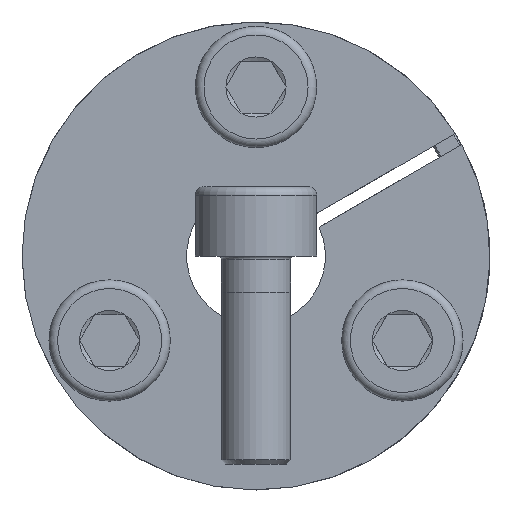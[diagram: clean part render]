
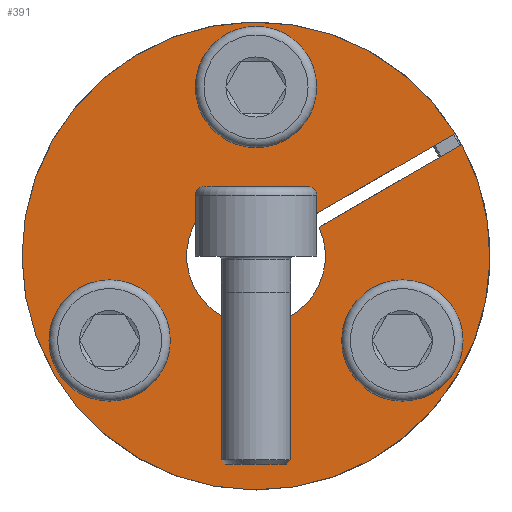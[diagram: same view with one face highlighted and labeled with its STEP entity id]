
A CAD part, front view. The second image highlights one B-rep face of the part: STEP entity #391.
In plain terms, the highlighted planar face has unit normal (0, -1, 0).
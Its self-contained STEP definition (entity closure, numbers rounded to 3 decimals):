
#391 = ADVANCED_FACE( '', ( #656, #657, #658, #659 ), #660, .F. );
#656 = FACE_BOUND( '', #898, .T. );
#657 = FACE_BOUND( '', #899, .T. );
#658 = FACE_BOUND( '', #900, .T. );
#659 = FACE_OUTER_BOUND( '', #901, .T. );
#660 = PLANE( '', #902 );
#898 = EDGE_LOOP( '', ( #1249 ) );
#899 = EDGE_LOOP( '', ( #1250 ) );
#900 = EDGE_LOOP( '', ( #1251 ) );
#901 = EDGE_LOOP( '', ( #1252, #1253, #1254, #1255 ) );
#902 = AXIS2_PLACEMENT_3D( '', #1256, #1257, #1258 );
#1249 = ORIENTED_EDGE( '', *, *, #1767, .T. );
#1250 = ORIENTED_EDGE( '', *, *, #1768, .T. );
#1251 = ORIENTED_EDGE( '', *, *, #1761, .T. );
#1252 = ORIENTED_EDGE( '', *, *, #1756, .T. );
#1253 = ORIENTED_EDGE( '', *, *, #1762, .T. );
#1254 = ORIENTED_EDGE( '', *, *, #1733, .T. );
#1255 = ORIENTED_EDGE( '', *, *, #1724, .F. );
#1256 = CARTESIAN_POINT( '', ( 0., 0., 13.5 ) );
#1257 = DIRECTION( '', ( 0., 1., 0. ) );
#1258 = DIRECTION( '', ( 0., 0., 1. ) );
#1724 = EDGE_CURVE( '', #1910, #1906, #1912, .T. );
#1733 = EDGE_CURVE( '', #1929, #1906, #1930, .T. );
#1756 = EDGE_CURVE( '', #1910, #1965, #1967, .T. );
#1761 = EDGE_CURVE( '', #1973, #1973, #1974, .T. );
#1762 = EDGE_CURVE( '', #1965, #1929, #1975, .T. );
#1767 = EDGE_CURVE( '', #1983, #1983, #1984, .T. );
#1768 = EDGE_CURVE( '', #1985, #1985, #1986, .T. );
#1906 = VERTEX_POINT( '', #2109 );
#1910 = VERTEX_POINT( '', #2114 );
#1912 = CIRCLE( '', #2117, 4. );
#1929 = VERTEX_POINT( '', #2142 );
#1930 = LINE( '', #2143, #2144 );
#1965 = VERTEX_POINT( '', #2208 );
#1967 = LINE( '', #2211, #2212 );
#1973 = VERTEX_POINT( '', #2218 );
#1974 = CIRCLE( '', #2219, 2. );
#1975 = CIRCLE( '', #2220, 13.5 );
#1983 = VERTEX_POINT( '', #2228 );
#1984 = CIRCLE( '', #2229, 2. );
#1985 = VERTEX_POINT( '', #2230 );
#1986 = CIRCLE( '', #2231, 2. );
#2109 = CARTESIAN_POINT( '', ( 3.636, 0., 1.666 ) );
#2114 = CARTESIAN_POINT( '', ( 3.261, 0., 2.316 ) );
#2117 = AXIS2_PLACEMENT_3D( '', #2458, #2459, #2460 );
#2142 = CARTESIAN_POINT( '', ( 11.874, 0., 6.423 ) );
#2143 = CARTESIAN_POINT( '', ( 11.879, 0., 6.425 ) );
#2144 = VECTOR( '', #2475, 1000. );
#2208 = CARTESIAN_POINT( '', ( 11.499, 0., 7.072 ) );
#2211 = CARTESIAN_POINT( '', ( 3.261, 0., 2.316 ) );
#2212 = VECTOR( '', #2500, 1000. );
#2218 = CARTESIAN_POINT( '', ( -9.444, 0., -3.143 ) );
#2219 = AXIS2_PLACEMENT_3D( '', #2513, #2514, #2515 );
#2220 = AXIS2_PLACEMENT_3D( '', #2516, #2517, #2518 );
#2228 = CARTESIAN_POINT( '', ( 2., 0., 9.75 ) );
#2229 = AXIS2_PLACEMENT_3D( '', #2531, #2532, #2533 );
#2230 = CARTESIAN_POINT( '', ( 7.444, 0., -6.607 ) );
#2231 = AXIS2_PLACEMENT_3D( '', #2534, #2535, #2536 );
#2458 = CARTESIAN_POINT( '', ( 0., 0., 0. ) );
#2459 = DIRECTION( '', ( 0., -1., 0. ) );
#2460 = DIRECTION( '', ( 0., 0., -1. ) );
#2475 = DIRECTION( '', ( -0.866, 0., -0.5 ) );
#2500 = DIRECTION( '', ( 0.866, 0., 0.5 ) );
#2513 = CARTESIAN_POINT( '', ( -8.444, 0., -4.875 ) );
#2514 = DIRECTION( '', ( 0., 1., 0. ) );
#2515 = DIRECTION( '', ( -0.5, 0., 0.866 ) );
#2516 = CARTESIAN_POINT( '', ( 0., 0., 0. ) );
#2517 = DIRECTION( '', ( 0., -1., 0. ) );
#2518 = DIRECTION( '', ( 0., 0., -1. ) );
#2531 = CARTESIAN_POINT( '', ( 0., 0., 9.75 ) );
#2532 = DIRECTION( '', ( 0., 1., 0. ) );
#2533 = DIRECTION( '', ( 1., 0., 0. ) );
#2534 = CARTESIAN_POINT( '', ( 8.444, 0., -4.875 ) );
#2535 = DIRECTION( '', ( 0., 1., 0. ) );
#2536 = DIRECTION( '', ( -0.5, 0., -0.866 ) );
